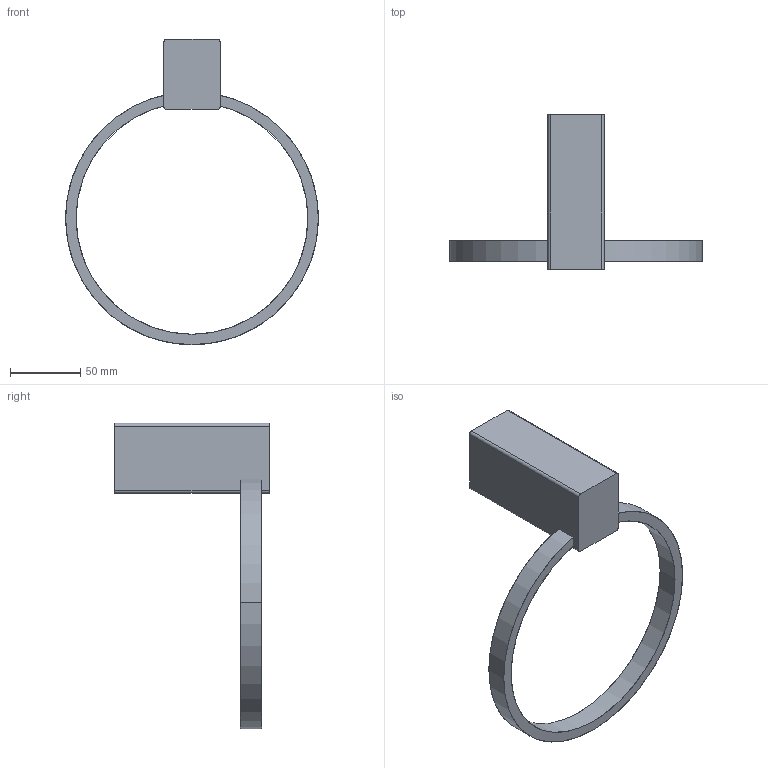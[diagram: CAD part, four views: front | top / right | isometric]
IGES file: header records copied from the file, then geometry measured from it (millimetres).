
Start section: SolidWorks IGES file using analytic representation for surfaces
Global section: file name: C:\Users\anna.bielnik\Desktop\modele 3D tymczasowe\CIRCOLO\CIRCOLO kinkiet XS\CIRCOLO-LED-XS-10808-10858 PM\CIRCOLO LED XS.IGS; native system: SolidWorks 2023; preprocessor: SolidWorks 2023; author: anna.bielnik; date: 230622.081312; units: millimetre
Bounding box: 180 x 110 x 217.52 mm (x, y, z)
Surface area: 46673.6 mm2 (no closed solid volume)
Topology: 0 solids, 0 shells, 20 faces, 396 edges, 396 vertices
Faces by surface type: bspline 10, revolution 10
